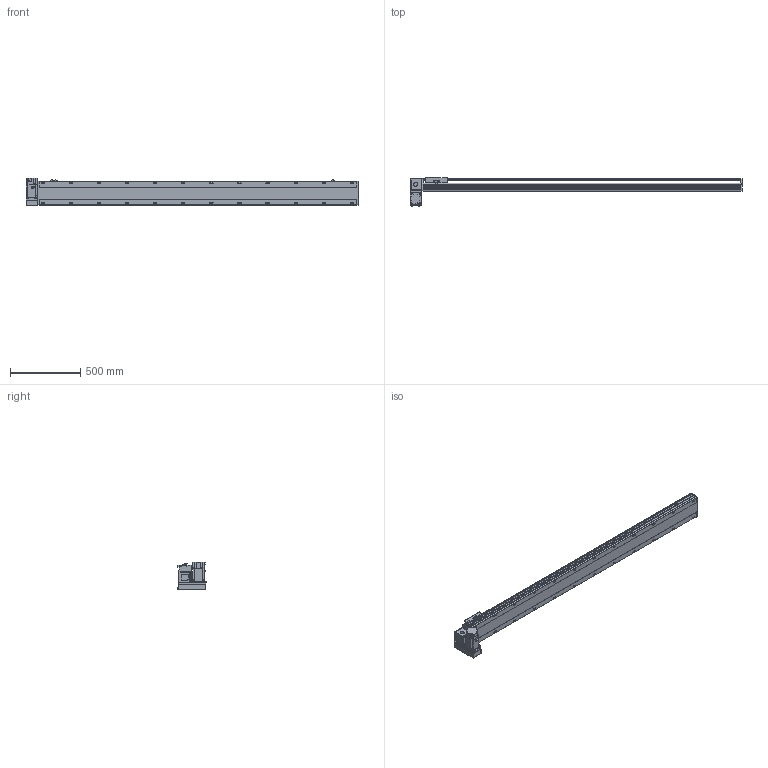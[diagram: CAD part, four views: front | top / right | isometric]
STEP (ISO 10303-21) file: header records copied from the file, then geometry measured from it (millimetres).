
FILE_DESCRIPTION( ( 'STEP AP214' ), '1' );
FILE_NAME( 'x:/temp/worker_4/temp/exporttempdir_2248_352_uEede/format_0/PBS170-P40-S2000-LD-T75-C1-N(0).stp', '2022-06-07T07:54:49', ( 'License CC BY-ND 4.0' ), ( 'CADENAS' ), ' ', 'PARTsolutions', ' ' );
FILE_SCHEMA( ( 'AUTOMOTIVE_DESIGN { 1 0 10303 214 1 1 1 1 }' ) );
Length unit declared in the file: millimetre
Products named in the file (7): PBS170-P40-S2000-LD-T75-C1-N(0); _PBS170-S2000()_body; _PBS170T-LD_motors; _T75-p1; _PBS170_sliser; _PBS170_plant; _PBS170_sensor
Assembly tree (8 placements, depth 2):
  PBS170-P40-S2000-LD-T75-C1-N(0)
    _PBS170-S2000()_body
    _PBS170T-LD_motors
    _T75-p1
    _PBS170_sliser
    _PBS170_plant
    _PBS170_sensor  x3
Bounding box: 2363 x 201 x 197.3 mm (x, y, z)
Volume: 18117965.5 mm3; surface area: 2298960.7 mm2
Topology: 8 solids, 8 shells, 1146 faces, 3035 edges, 1978 vertices
Faces by surface type: plane 711, cylinder 371, cone 54, sphere 8, torus 2
Full cylindrical faces by diameter (mm): 3.242 x4, 4 x2, 4.4 x4, 4.5 x6, 4.917 x4, 6 x9, 6.647 x32, 7 x2, 7.5 x4, 8 x8, 8.5 x24, 10 x4, 10.5 x24, 11 x2, 30 x2, 40 x1, 70 x1
Entity records: 42308 total; most frequent: CARTESIAN_POINT 6893, DIRECTION 5580, ORIENTED_EDGE 5268, EDGE_CURVE 2634, AXIS2_PLACEMENT_3D 1957, VERTEX_POINT 1826, LINE 1666, VECTOR 1666
